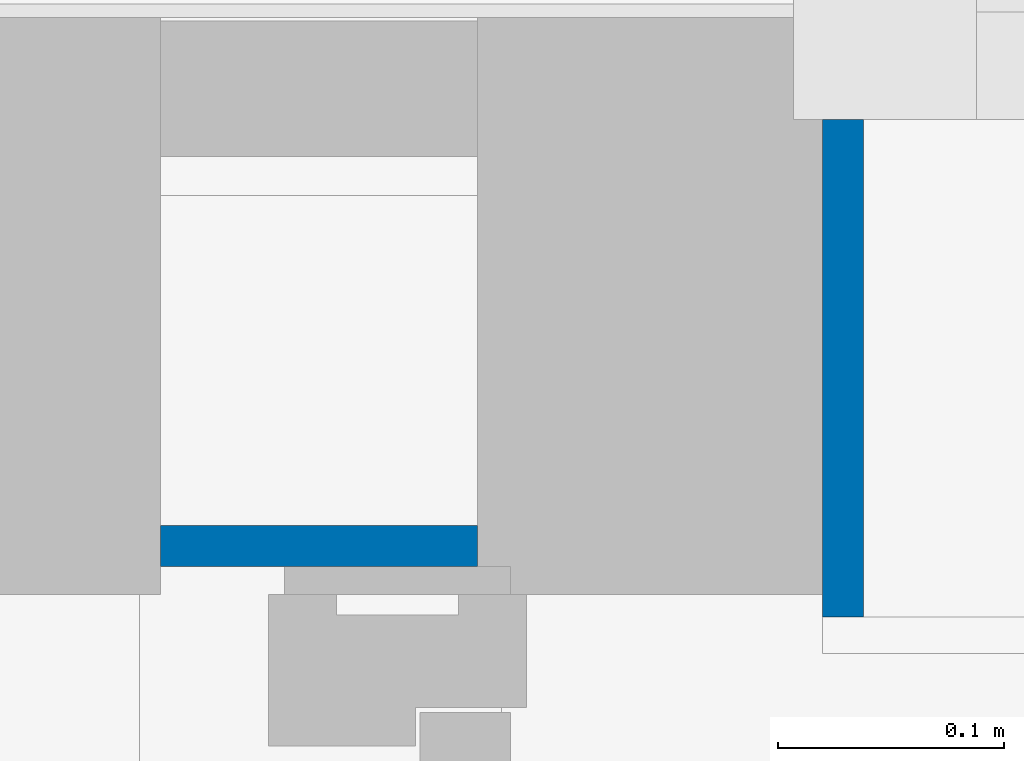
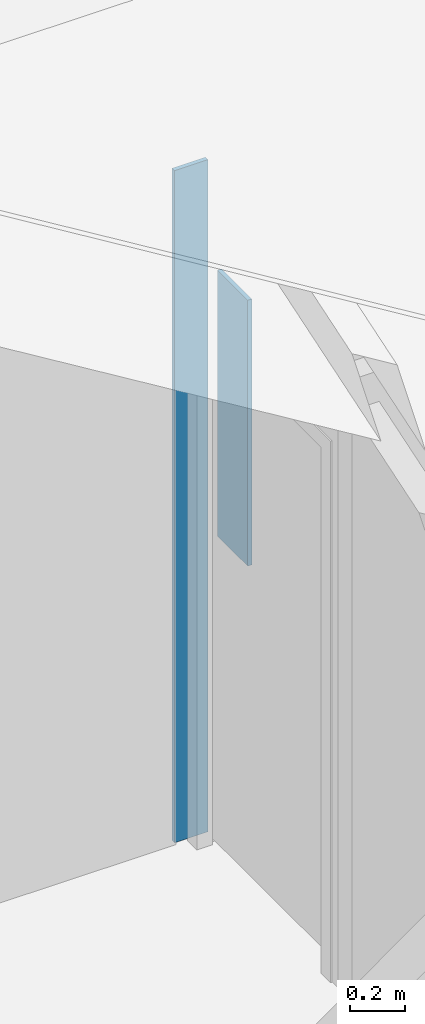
# One storey, part 20 of 66: 2 walls.
"""IFC2X3 building model written with IfcOpenShell, lengths in millimetres."""

from ifc_helpers import new_model, entity, si_unit, converted_unit, derived_unit, direction, frame, frame_2d, origin, place, context, subcontext, project, spatial, rectangle, extrude, material, layer, layer_set, layer_usage, type_object, element, save


model = new_model("IFC2X3")

# Units and contexts
model_context = context("Model", 3, precision=0.01, world=origin(), true_north=direction((6.12303176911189e-17, 1.0)))
body_context = subcontext(model_context, "Body", "Model", "MODEL_VIEW")
ifc_project = project(units=[si_unit("LENGTHUNIT", "METRE", prefix="MILLI"), si_unit("AREAUNIT", "SQUARE_METRE"), si_unit("VOLUMEUNIT", "CUBIC_METRE"), converted_unit("PLANEANGLEUNIT", "DEGREE", entity("IfcRatioMeasure", 0.0174532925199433), si_unit("PLANEANGLEUNIT", "RADIAN"), dimensions=[0, 0, 0, 0, 0, 0, 0]), si_unit("MASSUNIT", "GRAM", prefix="KILO"), derived_unit("MASSDENSITYUNIT", [(si_unit("MASSUNIT", "GRAM", prefix="KILO"), 1), (si_unit("LENGTHUNIT", "METRE"), -3)]), derived_unit("MOMENTOFINERTIAUNIT", [(si_unit("LENGTHUNIT", "METRE"), 4)]), si_unit("TIMEUNIT", "SECOND"), si_unit("FREQUENCYUNIT", "HERTZ"), si_unit("THERMODYNAMICTEMPERATUREUNIT", "DEGREE_CELSIUS"), derived_unit("THERMALTRANSMITTANCEUNIT", [(si_unit("MASSUNIT", "GRAM", prefix="KILO"), 1), (si_unit("THERMODYNAMICTEMPERATUREUNIT", "KELVIN"), -1), (si_unit("TIMEUNIT", "SECOND"), -3)]), derived_unit("VOLUMETRICFLOWRATEUNIT", [(si_unit("LENGTHUNIT", "METRE"), 3), (si_unit("TIMEUNIT", "SECOND"), -1)]), si_unit("ELECTRICCURRENTUNIT", "AMPERE"), si_unit("ELECTRICVOLTAGEUNIT", "VOLT"), si_unit("POWERUNIT", "WATT"), si_unit("FORCEUNIT", "NEWTON", prefix="KILO"), si_unit("ILLUMINANCEUNIT", "LUX"), si_unit("LUMINOUSFLUXUNIT", "LUMEN"), si_unit("LUMINOUSINTENSITYUNIT", "CANDELA"), derived_unit("USERDEFINED", [(si_unit("MASSUNIT", "GRAM", prefix="KILO"), -1), (si_unit("LENGTHUNIT", "METRE"), -2), (si_unit("TIMEUNIT", "SECOND"), 3), (si_unit("LUMINOUSFLUXUNIT", "LUMEN"), 1)]), derived_unit("LINEARVELOCITYUNIT", [(si_unit("LENGTHUNIT", "METRE"), 1), (si_unit("TIMEUNIT", "SECOND"), -1)]), si_unit("PRESSUREUNIT", "PASCAL"), derived_unit("USERDEFINED", [(si_unit("LENGTHUNIT", "METRE"), -2), (si_unit("MASSUNIT", "GRAM", prefix="KILO"), 1), (si_unit("TIMEUNIT", "SECOND"), -2)]), derived_unit("LINEARFORCEUNIT", [(si_unit("MASSUNIT", "GRAM", prefix="KILO"), 1), (si_unit("LENGTHUNIT", "METRE"), 1), (si_unit("TIMEUNIT", "SECOND"), -2), (si_unit("LENGTHUNIT", "METRE"), -1)]), derived_unit("PLANARFORCEUNIT", [(si_unit("MASSUNIT", "GRAM", prefix="KILO"), 1), (si_unit("LENGTHUNIT", "METRE"), 1), (si_unit("TIMEUNIT", "SECOND"), -2), (si_unit("LENGTHUNIT", "METRE"), -2)])], contexts=[model_context])

# Site, building, storey
site_placement = place(None, origin())
site = spatial("IfcSite", under=ifc_project, at=site_placement, Name="Default", CompositionType="ELEMENT")
building_placement = place(site_placement, origin())
building = spatial("IfcBuilding", under=site, at=building_placement, Name="-", CompositionType="ELEMENT")
storey_placement = place(building_placement, frame((0.0, 0.0, 3070.0)))
storey = spatial("IfcBuildingStorey", under=building, at=storey_placement, Name="01 eerste verdieping", CompositionType="ELEMENT", Elevation=3070.00000000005)

# Walls
ifc_material_1 = material(Name="NLRS_i4_hout_multiplex")
ifc_layer_1 = layer(ifc_material_1, 18.0)
ifc_layer_set_1 = layer_set([ifc_layer_1], Name="Basic Wall:NLRS_41_WA_plaatmateriaal 18mm_gen_aly")
ifc_layer_usage_1 = layer_usage(ifc_layer_set_1, "AXIS2", "POSITIVE", -9.0)
wall_type_1 = type_object("IfcWallType", Name="Basic Wall:NLRS_41_WA_plaatmateriaal 18mm_gen_aly", PredefinedType="STANDARD", material=ifc_layer_set_1)
wall_1_placement = place(storey_placement, frame((18562.0128386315, 10168.624095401, 0.0)))
element("IfcWallStandardCase", 1, at=wall_1_placement, inside=storey, type_object=wall_type_1, material=ifc_layer_usage_1, Name="Basic Wall:NLRS_41_WA_plaatmateriaal 18mm_gen_aly", ObjectType="Basic Wall:NLRS_41_WA_plaatmateriaal 18mm_gen_aly", context=body_context, shape_type="SweptSolid", body=[
    extrude(rectangle(XDim=140.000000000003, YDim=18.0000000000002, at=frame_2d((70.0000000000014, 1.55431223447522e-13), x_axis=(-1.0, 0.0))), origin(), (0.0, 0.0, 1.0), 2970.0),
])
ifc_material_2 = material(Name="AL_Multiplex RAL 9002")
ifc_layer_2 = layer(ifc_material_2, 18.0)
ifc_layer_set_2 = layer_set([ifc_layer_2], Name="Basic Wall:NLRS_41_WA_plaatmateriaal 18mm RAL 9002")
ifc_layer_usage_2 = layer_usage(ifc_layer_set_2, "AXIS2", "NEGATIVE", 9.0)
wall_type_2 = type_object("IfcWallType", Name="Basic Wall:NLRS_41_WA_plaatmateriaal 18mm RAL 9002", PredefinedType="STANDARD", material=ifc_layer_set_2)
wall_2_placement = place(storey_placement, frame((18863.6948343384, 10357.1240954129, 1134.0), z_axis=(0.0, 0.0, 1.0), x_axis=(0.0, -1.0, 0.0)))
element("IfcWallStandardCase", 2, at=wall_2_placement, inside=storey, type_object=wall_type_2, material=ifc_layer_usage_2, Name="Basic Wall:NLRS_41_WA_plaatmateriaal 18mm RAL 9002", ObjectType="Basic Wall:NLRS_41_WA_plaatmateriaal 18mm RAL 9002", context=body_context, shape_type="SweptSolid", body=[
    extrude(rectangle(XDim=220.0, YDim=18.0000000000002, at=frame_2d((110.0, -4.69846384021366e-13), x_axis=(-1.0, 0.0))), origin(), (0.0, 0.0, 1.0), 1174.0),
])

save(model, "model.ifc")
